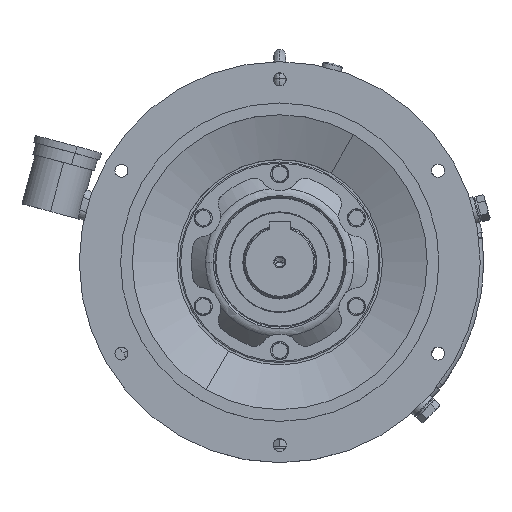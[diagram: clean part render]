
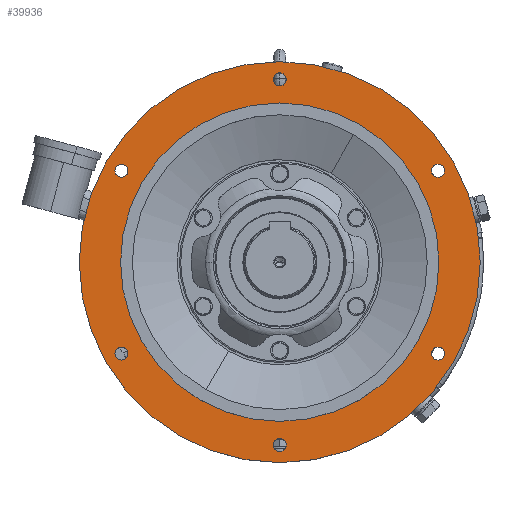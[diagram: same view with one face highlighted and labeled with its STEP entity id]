
A CAD part, top view. The second image highlights one B-rep face of the part: STEP entity #39936.
In plain terms, the highlighted planar face has unit normal (0, 0, 1).
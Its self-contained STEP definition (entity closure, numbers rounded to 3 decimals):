
#15197=CARTESIAN_POINT('',(0.,0.,
0.));
#15198=DIRECTION('',(0.,0.,-1.));
#15199=DIRECTION('',(-0.866,0.5,0.));
#15200=AXIS2_PLACEMENT_3D('',#15197,#15198,#15199);
#15202=CARTESIAN_POINT('',(0.,0.,
0.));
#15203=DIRECTION('',(0.,0.,-1.));
#15204=DIRECTION('',(0.866,-0.5,0.));
#15205=AXIS2_PLACEMENT_3D('',#15202,#15203,#15204);
#15207=CARTESIAN_POINT('',(0.,155.,0.));
#15208=DIRECTION('',(0.,0.,1.));
#15209=DIRECTION('',(0.866,0.5,0.));
#15210=AXIS2_PLACEMENT_3D('',#15207,#15208,#15209);
#15212=CARTESIAN_POINT('',(0.,155.,0.));
#15213=DIRECTION('',(0.,0.,1.));
#15214=DIRECTION('',(-0.866,-0.5,0.));
#15215=AXIS2_PLACEMENT_3D('',#15212,#15213,#15214);
#15217=CARTESIAN_POINT('',(-134.234,77.5,0.));
#15218=DIRECTION('',(0.,0.,1.));
#15219=DIRECTION('',(0.,1.,0.));
#15220=AXIS2_PLACEMENT_3D('',#15217,#15218,#15219);
#15222=CARTESIAN_POINT('',(-134.234,77.5,0.));
#15223=DIRECTION('',(0.,0.,1.));
#15224=DIRECTION('',(0.,-1.,0.));
#15225=AXIS2_PLACEMENT_3D('',#15222,#15223,#15224);
#15227=CARTESIAN_POINT('',(-134.234,-77.5,0.));
#15228=DIRECTION('',(0.,0.,1.));
#15229=DIRECTION('',(-0.866,0.5,0.));
#15230=AXIS2_PLACEMENT_3D('',#15227,#15228,#15229);
#15232=CARTESIAN_POINT('',(-134.234,-77.5,0.));
#15233=DIRECTION('',(0.,0.,1.));
#15234=DIRECTION('',(0.866,-0.5,0.));
#15235=AXIS2_PLACEMENT_3D('',#15232,#15233,#15234);
#15237=CARTESIAN_POINT('',(0.,-155.,0.));
#15238=DIRECTION('',(0.,0.,1.));
#15239=DIRECTION('',(-0.866,-0.5,0.));
#15240=AXIS2_PLACEMENT_3D('',#15237,#15238,#15239);
#15242=CARTESIAN_POINT('',(0.,-155.,0.));
#15243=DIRECTION('',(0.,0.,1.));
#15244=DIRECTION('',(0.866,0.5,0.));
#15245=AXIS2_PLACEMENT_3D('',#15242,#15243,#15244);
#15247=CARTESIAN_POINT('',(134.234,-77.5,0.));
#15248=DIRECTION('',(0.,0.,1.));
#15249=DIRECTION('',(0.,-1.,0.));
#15250=AXIS2_PLACEMENT_3D('',#15247,#15248,#15249);
#15252=CARTESIAN_POINT('',(134.234,-77.5,0.));
#15253=DIRECTION('',(0.,0.,1.));
#15254=DIRECTION('',(0.,1.,0.));
#15255=AXIS2_PLACEMENT_3D('',#15252,#15253,#15254);
#15257=CARTESIAN_POINT('',(134.234,77.5,0.));
#15258=DIRECTION('',(0.,0.,1.));
#15259=DIRECTION('',(0.866,-0.5,0.));
#15260=AXIS2_PLACEMENT_3D('',#15257,#15258,#15259);
#15262=CARTESIAN_POINT('',(134.234,77.5,0.));
#15263=DIRECTION('',(0.,0.,1.));
#15264=DIRECTION('',(-0.866,0.5,0.));
#15265=AXIS2_PLACEMENT_3D('',#15262,#15263,#15264);
#15267=CARTESIAN_POINT('',(0.,0.,0.));
#15268=DIRECTION('',(0.,0.,1.));
#15269=DIRECTION('',(-0.866,0.5,0.));
#15270=AXIS2_PLACEMENT_3D('',#15267,#15268,#15269);
#15272=CARTESIAN_POINT('',(0.,0.,0.));
#15273=DIRECTION('',(0.,0.,1.));
#15274=DIRECTION('',(0.866,-0.5,0.));
#15275=AXIS2_PLACEMENT_3D('',#15272,#15273,#15274);
#23944=CARTESIAN_POINT('',(-147.224,85.,0.));
#23945=CARTESIAN_POINT('',(147.224,-85.,0.));
#23946=VERTEX_POINT('',#23944);
#23947=VERTEX_POINT('',#23945);
#23948=CARTESIAN_POINT('',(4.763,157.75,0.));
#23949=CARTESIAN_POINT('',(-4.763,152.25,0.));
#23950=VERTEX_POINT('',#23948);
#23951=VERTEX_POINT('',#23949);
#23952=CARTESIAN_POINT('',(-134.234,83.,0.));
#23953=CARTESIAN_POINT('',(-134.234,72.,0.));
#23954=VERTEX_POINT('',#23952);
#23955=VERTEX_POINT('',#23953);
#23956=CARTESIAN_POINT('',(-138.997,-74.75,0.));
#23957=CARTESIAN_POINT('',(-129.471,-80.25,0.));
#23958=VERTEX_POINT('',#23956);
#23959=VERTEX_POINT('',#23957);
#23960=CARTESIAN_POINT('',(-4.763,-157.75,0.));
#23961=CARTESIAN_POINT('',(4.763,-152.25,0.));
#23962=VERTEX_POINT('',#23960);
#23963=VERTEX_POINT('',#23961);
#23964=CARTESIAN_POINT('',(134.234,-83.,0.));
#23965=CARTESIAN_POINT('',(134.234,-72.,0.));
#23966=VERTEX_POINT('',#23964);
#23967=VERTEX_POINT('',#23965);
#23968=CARTESIAN_POINT('',(138.997,74.75,0.));
#23969=CARTESIAN_POINT('',(129.471,80.25,0.));
#23970=VERTEX_POINT('',#23968);
#23971=VERTEX_POINT('',#23969);
#23972=CARTESIAN_POINT('',(-116.913,67.5,0.));
#23973=CARTESIAN_POINT('',(116.913,-67.5,0.));
#23974=VERTEX_POINT('',#23972);
#23975=VERTEX_POINT('',#23973);
#39884=CARTESIAN_POINT('',(0.,0.,0.));
#39885=DIRECTION('',(0.,0.,1.));
#39886=DIRECTION('',(-0.866,0.5,0.));
#39887=AXIS2_PLACEMENT_3D('',#39884,#39885,#39886);
#39888=PLANE('',#39887);
#39889=ORIENTED_EDGE('',*,*,#39874,.T.);
#39891=ORIENTED_EDGE('',*,*,#39890,.T.);
#39892=EDGE_LOOP('',(#39889,#39891));
#39893=FACE_OUTER_BOUND('',#39892,.F.);
#39895=ORIENTED_EDGE('',*,*,#39894,.T.);
#39897=ORIENTED_EDGE('',*,*,#39896,.T.);
#39898=EDGE_LOOP('',(#39895,#39897));
#39899=FACE_BOUND('',#39898,.F.);
#39901=ORIENTED_EDGE('',*,*,#39900,.T.);
#39903=ORIENTED_EDGE('',*,*,#39902,.T.);
#39904=EDGE_LOOP('',(#39901,#39903));
#39905=FACE_BOUND('',#39904,.F.);
#39907=ORIENTED_EDGE('',*,*,#39906,.T.);
#39909=ORIENTED_EDGE('',*,*,#39908,.T.);
#39910=EDGE_LOOP('',(#39907,#39909));
#39911=FACE_BOUND('',#39910,.F.);
#39913=ORIENTED_EDGE('',*,*,#39912,.T.);
#39915=ORIENTED_EDGE('',*,*,#39914,.T.);
#39916=EDGE_LOOP('',(#39913,#39915));
#39917=FACE_BOUND('',#39916,.F.);
#39919=ORIENTED_EDGE('',*,*,#39918,.T.);
#39921=ORIENTED_EDGE('',*,*,#39920,.T.);
#39922=EDGE_LOOP('',(#39919,#39921));
#39923=FACE_BOUND('',#39922,.F.);
#39925=ORIENTED_EDGE('',*,*,#39924,.T.);
#39927=ORIENTED_EDGE('',*,*,#39926,.T.);
#39928=EDGE_LOOP('',(#39925,#39927));
#39929=FACE_BOUND('',#39928,.F.);
#39931=ORIENTED_EDGE('',*,*,#39930,.T.);
#39933=ORIENTED_EDGE('',*,*,#39932,.T.);
#39934=EDGE_LOOP('',(#39931,#39933));
#39935=FACE_BOUND('',#39934,.F.);
#39936=ADVANCED_FACE('',(#39893,#39899,#39905,#39911,#39917,#39923,#39929,
#39935),#39888,.T.);
#15201=CIRCLE('',#15200,170.);
#15206=CIRCLE('',#15205,170.);
#15211=CIRCLE('',#15210,5.5);
#15216=CIRCLE('',#15215,5.5);
#15221=CIRCLE('',#15220,5.5);
#15226=CIRCLE('',#15225,5.5);
#15231=CIRCLE('',#15230,5.5);
#15236=CIRCLE('',#15235,5.5);
#15241=CIRCLE('',#15240,5.5);
#15246=CIRCLE('',#15245,5.5);
#15251=CIRCLE('',#15250,5.5);
#15256=CIRCLE('',#15255,5.5);
#15261=CIRCLE('',#15260,5.5);
#15266=CIRCLE('',#15265,5.5);
#15271=CIRCLE('',#15270,135.);
#15276=CIRCLE('',#15275,135.);
#39874=EDGE_CURVE('',#23946,#23947,#15201,.T.);
#39890=EDGE_CURVE('',#23947,#23946,#15206,.T.);
#39894=EDGE_CURVE('',#23950,#23951,#15211,.T.);
#39896=EDGE_CURVE('',#23951,#23950,#15216,.T.);
#39900=EDGE_CURVE('',#23954,#23955,#15221,.T.);
#39902=EDGE_CURVE('',#23955,#23954,#15226,.T.);
#39906=EDGE_CURVE('',#23958,#23959,#15231,.T.);
#39908=EDGE_CURVE('',#23959,#23958,#15236,.T.);
#39912=EDGE_CURVE('',#23962,#23963,#15241,.T.);
#39914=EDGE_CURVE('',#23963,#23962,#15246,.T.);
#39918=EDGE_CURVE('',#23966,#23967,#15251,.T.);
#39920=EDGE_CURVE('',#23967,#23966,#15256,.T.);
#39924=EDGE_CURVE('',#23970,#23971,#15261,.T.);
#39926=EDGE_CURVE('',#23971,#23970,#15266,.T.);
#39930=EDGE_CURVE('',#23974,#23975,#15271,.T.);
#39932=EDGE_CURVE('',#23975,#23974,#15276,.T.);
